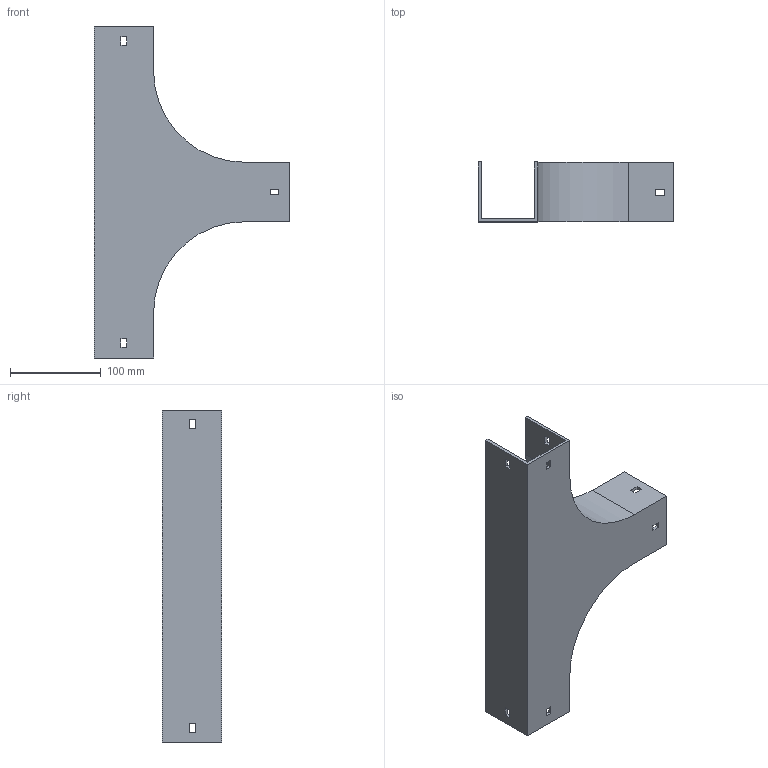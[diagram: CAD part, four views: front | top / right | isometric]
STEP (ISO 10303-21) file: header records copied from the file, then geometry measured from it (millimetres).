
FILE_DESCRIPTION (( 'STEP AP214' ), '1' );
FILE_NAME ('15B1H065.step', '2025-02-21T09:54:32', ( '' ), ( '' ), 'SwSTEP 2.0', 'SolidWorks 2023', '' );
FILE_SCHEMA (( 'AUTOMOTIVE_DESIGN' ));
Length unit declared in the file: millimetre
Products named in the file (1): 15B1H065
Bounding box: 215.5 x 65.5 x 365.5 mm (x, y, z)
Volume: 323195.3 mm3; surface area: 190791.1 mm2
Topology: 1 solids, 1 shells, 58 faces, 168 edges, 112 vertices
Faces by surface type: plane 54, cylinder 4
Entity records: 1939 total; most frequent: CARTESIAN_POINT 339, ORIENTED_EDGE 336, DIRECTION 294, EDGE_CURVE 168, LINE 160, VECTOR 160, VERTEX_POINT 112, EDGE_LOOP 76
